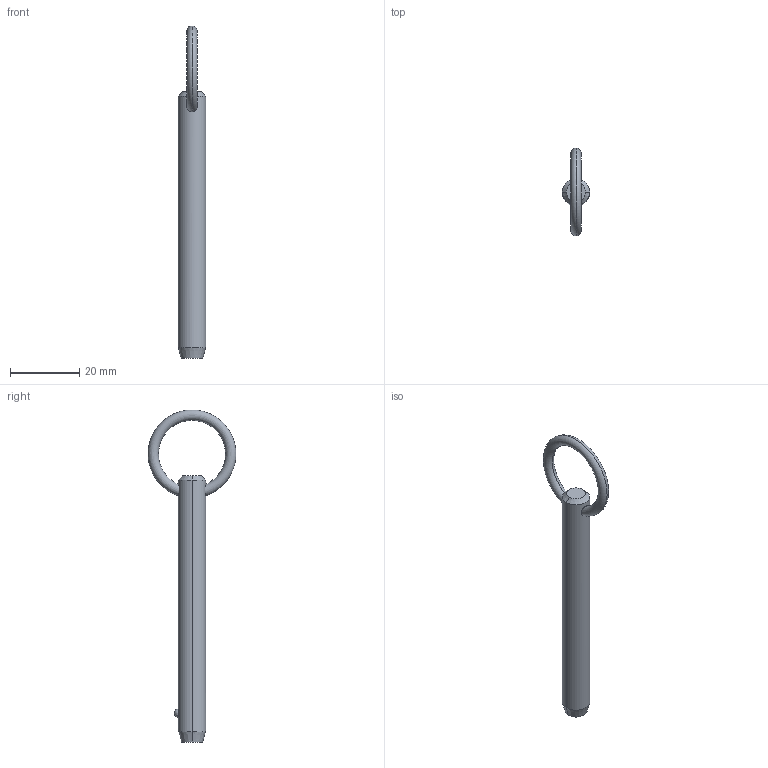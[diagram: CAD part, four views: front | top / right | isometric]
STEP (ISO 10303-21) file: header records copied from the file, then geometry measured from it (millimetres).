
FILE_DESCRIPTION (( 'STEP AP203' ), '1' );
FILE_NAME ('P1250.031-240.step', '2019-07-29T19:51:32', ( '' ), ( '' ), 'SwSTEP 2.0', 'SolidWorks 2017', '' );
FILE_SCHEMA (( 'CONFIG_CONTROL_DESIGN' ));
Length unit declared in the file: millimetre
Products named in the file (1): P1250.031-240
Bounding box: 7.93 x 25.36 x 95.9 mm (x, y, z)
Volume: 4197.1 mm3; surface area: 2550.4 mm2
Topology: 1 solids, 1 shells, 12 faces, 28 edges, 17 vertices
Faces by surface type: cone 4, torus 2, sphere 2, cylinder 2, plane 2
Entity records: 509 total; most frequent: CARTESIAN_POINT 176, DIRECTION 56, ORIENTED_EDGE 48, AXIS2_PLACEMENT_3D 25, EDGE_CURVE 24, VERTEX_POINT 15, EDGE_LOOP 15, ADVANCED_FACE 12
